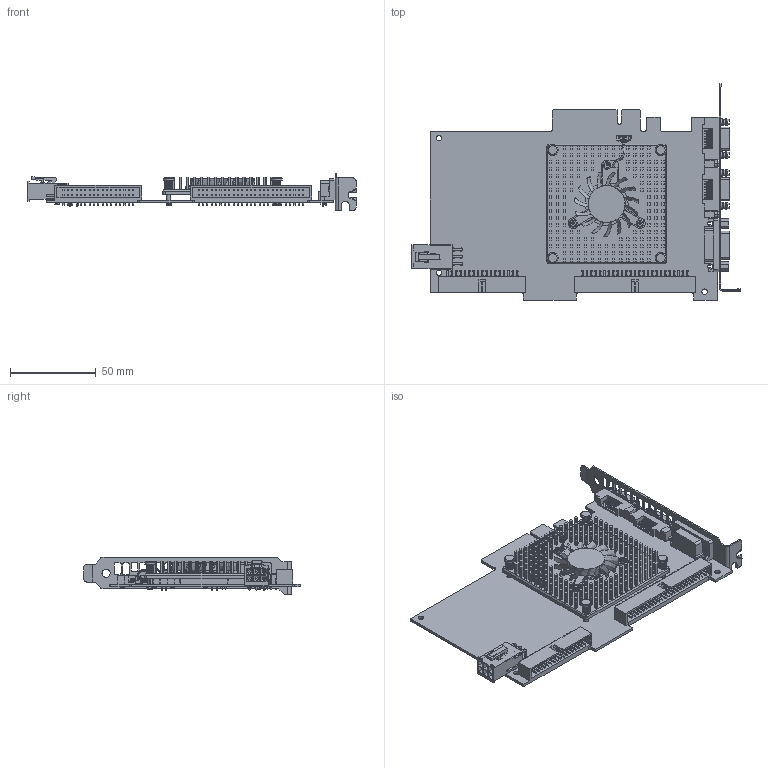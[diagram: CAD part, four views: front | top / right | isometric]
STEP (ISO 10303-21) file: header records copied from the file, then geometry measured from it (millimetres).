
FILE_DESCRIPTION((''),'2;1');
FILE_NAME('CU_PCIE-1477','2018-08-21T',('kleong'),(''),'CREO PARAMETRIC BY PTC INC, 2017480','CREO PARAMETRIC BY PTC INC, 2017480','');
FILE_SCHEMA(('AUTOMOTIVE_DESIGN { 1 0 10303 214 1 1 1 1 }'));
Products named in the file (1): CU_PCIE-1477
Bounding box: 191.62 x 126.31 x 21.59 mm (x, y, z)
Volume: 64360.4 mm3; surface area: 76126.4 mm2
Topology: 1 solids, 1 shells, 5760 faces, 15443 edges, 10159 vertices
Faces by surface type: plane 3986, cylinder 1623, bspline 74, cone 48, torus 16, sphere 13
Entity records: 228754 total; most frequent: CARTESIAN_POINT 49383, ORIENTED_EDGE 30854, DIRECTION 29841, EDGE_CURVE 15427, VECTOR 11557, LINE 11557, VERTEX_POINT 10159, AXIS2_PLACEMENT_3D 9142
